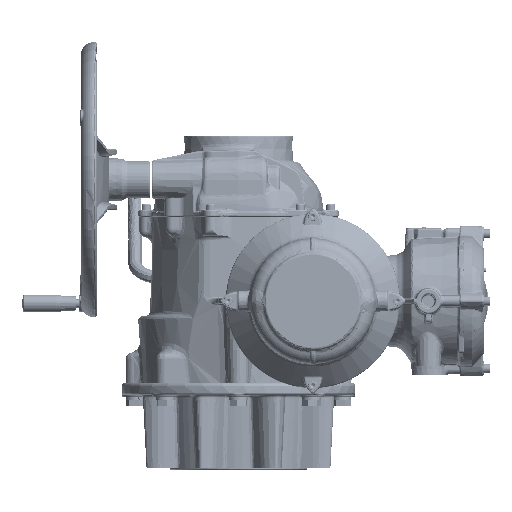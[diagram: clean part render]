
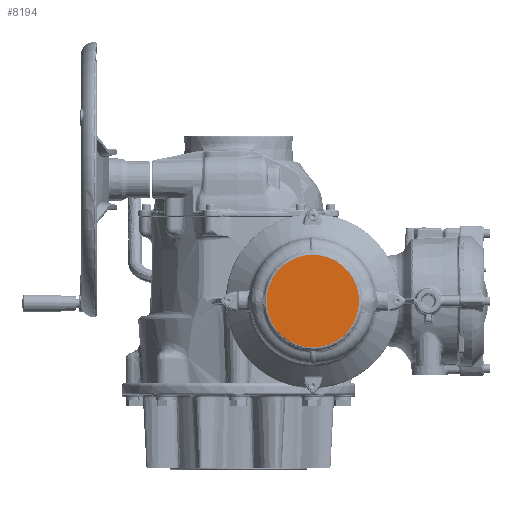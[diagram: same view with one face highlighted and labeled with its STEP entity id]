
A CAD part, left-side view. The second image highlights one B-rep face of the part: STEP entity #8194.
In plain terms, the highlighted planar face has unit normal (-1, 0, 0).
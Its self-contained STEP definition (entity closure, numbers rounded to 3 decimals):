
#8194 = ADVANCED_FACE( '', ( #22697 ), #22698, .T. );
#22697 = FACE_OUTER_BOUND( '', #73430, .T. );
#22698 = PLANE( '', #73431 );
#73430 = EDGE_LOOP( '', ( #404405 ) );
#73431 = AXIS2_PLACEMENT_3D( '', #404406, #404407, #404408 );
#404405 = ORIENTED_EDGE( '', *, *, #456637, .T. );
#404406 = CARTESIAN_POINT( '', ( -487.8, -108., 0. ) );
#404407 = DIRECTION( '', ( -1., 0., 0. ) );
#404408 = DIRECTION( '', ( 0., 0., -1. ) );
#456637 = EDGE_CURVE( '', #480691, #480691, #480692, .T. );
#480691 = VERTEX_POINT( '', #520319 );
#480692 = CIRCLE( '', #520320, 67.19 );
#520319 = CARTESIAN_POINT( '', ( -487.8, -108., -67.19 ) );
#520320 = AXIS2_PLACEMENT_3D( '', #696156, #696157, #696158 );
#696156 = CARTESIAN_POINT( '', ( -487.8, -108., 0. ) );
#696157 = DIRECTION( '', ( -1., 0., 0. ) );
#696158 = DIRECTION( '', ( 0., 0., -1. ) );
